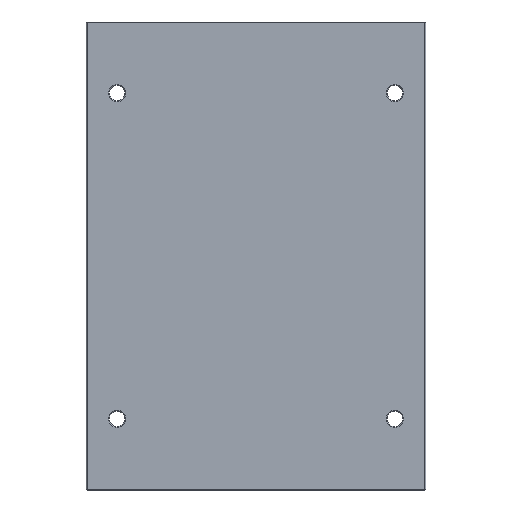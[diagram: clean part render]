
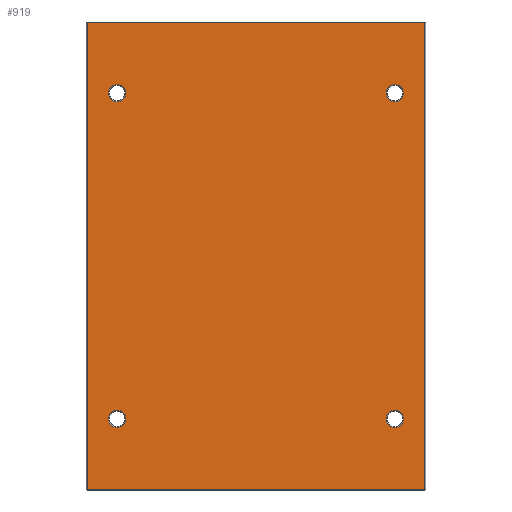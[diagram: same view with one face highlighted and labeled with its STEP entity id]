
A CAD part, front view. The second image highlights one B-rep face of the part: STEP entity #919.
In plain terms, the highlighted planar face has unit normal (0, -1, 0).
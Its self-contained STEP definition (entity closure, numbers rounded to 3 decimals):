
#15 = DIRECTION ( 'NONE',  ( 0., 0., 1. ) ) ;
#35 = CIRCLE ( 'NONE', #764, 10. ) ;
#89 = CARTESIAN_POINT ( 'NONE',  ( -162., 0., -190. ) ) ;
#98 = DIRECTION ( 'NONE',  ( 0., 1., 0. ) ) ;
#103 = DIRECTION ( 'NONE',  ( 0., 1., 0. ) ) ;
#105 = CIRCLE ( 'NONE', #243, 10. ) ;
#107 = DIRECTION ( 'NONE',  ( 0., 0., 1. ) ) ;
#122 = VERTEX_POINT ( 'NONE', #856 ) ;
#140 = VERTEX_POINT ( 'NONE', #980 ) ;
#168 = CARTESIAN_POINT ( 'NONE',  ( -162., 0., -190. ) ) ;
#181 = DIRECTION ( 'NONE',  ( 0., 1., 0. ) ) ;
#191 = VERTEX_POINT ( 'NONE', #1155 ) ;
#201 = VERTEX_POINT ( 'NONE', #1117 ) ;
#215 = DIRECTION ( 'NONE',  ( 0., 1., 0. ) ) ;
#220 = VERTEX_POINT ( 'NONE', #1202 ) ;
#229 = DIRECTION ( 'NONE',  ( 0., 0., 1. ) ) ;
#243 = AXIS2_PLACEMENT_3D ( 'NONE', #1343, #1373, #1383 ) ;
#248 = AXIS2_PLACEMENT_3D ( 'NONE', #369, #388, #393 ) ;
#273 = LINE ( 'NONE', #1539, #391 ) ;
#278 = DIRECTION ( 'NONE',  ( 0., 0., 1. ) ) ;
#294 = CARTESIAN_POINT ( 'NONE',  ( 197., 0., 0. ) ) ;
#330 = CIRCLE ( 'NONE', #421, 10. ) ;
#341 = CARTESIAN_POINT ( 'NONE',  ( 162., 0., -180. ) ) ;
#369 = CARTESIAN_POINT ( 'NONE',  ( -162., 0., 190. ) ) ;
#385 = EDGE_CURVE ( 'NONE', #1571, #761, #1491, .T. ) ;
#388 = DIRECTION ( 'NONE',  ( 0., 1., 0. ) ) ;
#391 = VECTOR ( 'NONE', #1083, 1000. ) ;
#393 = DIRECTION ( 'NONE',  ( 0., 0., 1. ) ) ;
#404 = DIRECTION ( 'NONE',  ( 0., 1., 0. ) ) ;
#417 = DIRECTION ( 'NONE',  ( 0., 1., 0. ) ) ;
#421 = AXIS2_PLACEMENT_3D ( 'NONE', #1042, #1180, #1242 ) ;
#445 = DIRECTION ( 'NONE',  ( 0., 0., 1. ) ) ;
#463 = ORIENTED_EDGE ( 'NONE', *, *, #1219, .T. ) ;
#472 = EDGE_LOOP ( 'NONE', ( #679, #463, #1395, #1460 ) ) ;
#480 = EDGE_CURVE ( 'NONE', #1191, #201, #273, .T. ) ;
#503 = ORIENTED_EDGE ( 'NONE', *, *, #1139, .T. ) ;
#509 = AXIS2_PLACEMENT_3D ( 'NONE', #1638, #103, #229 ) ;
#531 = LINE ( 'NONE', #656, #536 ) ;
#536 = VECTOR ( 'NONE', #652, 1000. ) ;
#543 = ORIENTED_EDGE ( 'NONE', *, *, #1095, .T. ) ;
#552 = AXIS2_PLACEMENT_3D ( 'NONE', #1531, #404, #15 ) ;
#556 = EDGE_CURVE ( 'NONE', #220, #970, #1475, .T. ) ;
#563 = CARTESIAN_POINT ( 'NONE',  ( 162., 0., -190. ) ) ;
#593 = EDGE_CURVE ( 'NONE', #191, #696, #1121, .T. ) ;
#610 = EDGE_CURVE ( 'NONE', #201, #697, #832, .T. ) ;
#611 = DIRECTION ( 'NONE',  ( 0., 0., 1. ) ) ;
#626 = EDGE_CURVE ( 'NONE', #122, #1191, #531, .T. ) ;
#652 = DIRECTION ( 'NONE',  ( 0., 0., -1. ) ) ;
#653 = DIRECTION ( 'NONE',  ( 0., 0., 1. ) ) ;
#656 = CARTESIAN_POINT ( 'NONE',  ( -197., 0., 0. ) ) ;
#662 = VECTOR ( 'NONE', #445, 1000. ) ;
#668 = EDGE_CURVE ( 'NONE', #761, #1571, #105, .T. ) ;
#679 = ORIENTED_EDGE ( 'NONE', *, *, #610, .T. ) ;
#696 = VERTEX_POINT ( 'NONE', #1561 ) ;
#697 = VERTEX_POINT ( 'NONE', #1538 ) ;
#761 = VERTEX_POINT ( 'NONE', #958 ) ;
#764 = AXIS2_PLACEMENT_3D ( 'NONE', #89, #98, #107 ) ;
#784 = EDGE_LOOP ( 'NONE', ( #854, #1140 ) ) ;
#832 = LINE ( 'NONE', #294, #662 ) ;
#848 = CARTESIAN_POINT ( 'NONE',  ( 162., 0., 180. ) ) ;
#854 = ORIENTED_EDGE ( 'NONE', *, *, #556, .T. ) ;
#855 = CIRCLE ( 'NONE', #552, 10. ) ;
#856 = CARTESIAN_POINT ( 'NONE',  ( -197., 0., 272. ) ) ;
#864 = DIRECTION ( 'NONE',  ( -1., 0., 0. ) ) ;
#877 = VECTOR ( 'NONE', #864, 1000. ) ;
#880 = CARTESIAN_POINT ( 'NONE',  ( 0., 0., 272. ) ) ;
#895 = AXIS2_PLACEMENT_3D ( 'NONE', #168, #215, #278 ) ;
#919 = ADVANCED_FACE ( 'NONE', ( #1351, #1231, #1265, #1553, #1307 ), #1628, .F. ) ;
#935 = AXIS2_PLACEMENT_3D ( 'NONE', #1570, #181, #611 ) ;
#958 = CARTESIAN_POINT ( 'NONE',  ( 162., 0., -200. ) ) ;
#970 = VERTEX_POINT ( 'NONE', #1650 ) ;
#980 = CARTESIAN_POINT ( 'NONE',  ( 162., 0., 200. ) ) ;
#1016 = EDGE_LOOP ( 'NONE', ( #1304, #1346 ) ) ;
#1040 = EDGE_CURVE ( 'NONE', #1533, #140, #330, .T. ) ;
#1042 = CARTESIAN_POINT ( 'NONE',  ( 162., 0., 190. ) ) ;
#1083 = DIRECTION ( 'NONE',  ( 1., 0., 0. ) ) ;
#1086 = ORIENTED_EDGE ( 'NONE', *, *, #593, .T. ) ;
#1091 = CARTESIAN_POINT ( 'NONE',  ( -197., 0., -272. ) ) ;
#1095 = EDGE_CURVE ( 'NONE', #140, #1533, #855, .T. ) ;
#1110 = EDGE_CURVE ( 'NONE', #970, #220, #1348, .T. ) ;
#1117 = CARTESIAN_POINT ( 'NONE',  ( 197., 0., -272. ) ) ;
#1121 = CIRCLE ( 'NONE', #895, 10. ) ;
#1139 = EDGE_CURVE ( 'NONE', #696, #191, #35, .T. ) ;
#1140 = ORIENTED_EDGE ( 'NONE', *, *, #1110, .T. ) ;
#1150 = EDGE_LOOP ( 'NONE', ( #1086, #503 ) ) ;
#1155 = CARTESIAN_POINT ( 'NONE',  ( -162., 0., -200. ) ) ;
#1168 = AXIS2_PLACEMENT_3D ( 'NONE', #563, #417, #653 ) ;
#1180 = DIRECTION ( 'NONE',  ( 0., 1., 0. ) ) ;
#1182 = EDGE_LOOP ( 'NONE', ( #1425, #543 ) ) ;
#1191 = VERTEX_POINT ( 'NONE', #1091 ) ;
#1202 = CARTESIAN_POINT ( 'NONE',  ( -162., 0., 180. ) ) ;
#1219 = EDGE_CURVE ( 'NONE', #697, #122, #1496, .T. ) ;
#1231 = FACE_BOUND ( 'NONE', #1182, .T. ) ;
#1242 = DIRECTION ( 'NONE',  ( 0., 0., 1. ) ) ;
#1265 = FACE_BOUND ( 'NONE', #784, .T. ) ;
#1304 = ORIENTED_EDGE ( 'NONE', *, *, #668, .T. ) ;
#1307 = FACE_OUTER_BOUND ( 'NONE', #472, .T. ) ;
#1343 = CARTESIAN_POINT ( 'NONE',  ( 162., 0., -190. ) ) ;
#1346 = ORIENTED_EDGE ( 'NONE', *, *, #385, .T. ) ;
#1348 = CIRCLE ( 'NONE', #248, 10. ) ;
#1351 = FACE_BOUND ( 'NONE', #1016, .T. ) ;
#1373 = DIRECTION ( 'NONE',  ( 0., 1., 0. ) ) ;
#1383 = DIRECTION ( 'NONE',  ( 0., 0., 1. ) ) ;
#1395 = ORIENTED_EDGE ( 'NONE', *, *, #626, .T. ) ;
#1425 = ORIENTED_EDGE ( 'NONE', *, *, #1040, .T. ) ;
#1460 = ORIENTED_EDGE ( 'NONE', *, *, #480, .T. ) ;
#1475 = CIRCLE ( 'NONE', #935, 10. ) ;
#1491 = CIRCLE ( 'NONE', #1168, 10. ) ;
#1496 = LINE ( 'NONE', #880, #877 ) ;
#1531 = CARTESIAN_POINT ( 'NONE',  ( 162., 0., 190. ) ) ;
#1533 = VERTEX_POINT ( 'NONE', #848 ) ;
#1538 = CARTESIAN_POINT ( 'NONE',  ( 197., 0., 272. ) ) ;
#1539 = CARTESIAN_POINT ( 'NONE',  ( 0., 0., -272. ) ) ;
#1553 = FACE_BOUND ( 'NONE', #1150, .T. ) ;
#1561 = CARTESIAN_POINT ( 'NONE',  ( -162., 0., -180. ) ) ;
#1570 = CARTESIAN_POINT ( 'NONE',  ( -162., 0., 190. ) ) ;
#1571 = VERTEX_POINT ( 'NONE', #341 ) ;
#1628 = PLANE ( 'NONE',  #509 ) ;
#1638 = CARTESIAN_POINT ( 'NONE',  ( 0., 0., 0. ) ) ;
#1650 = CARTESIAN_POINT ( 'NONE',  ( -162., 0., 200. ) ) ;
